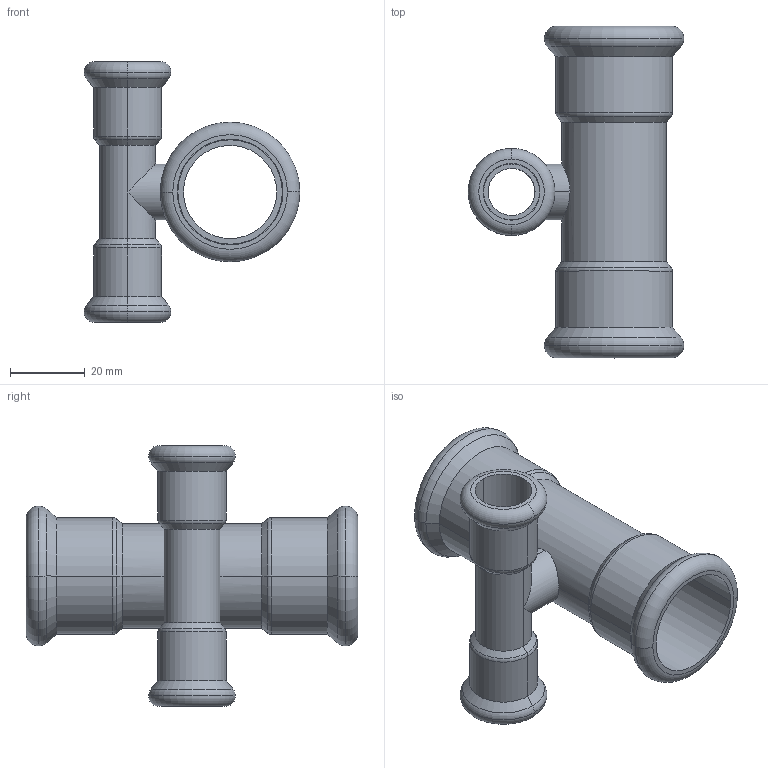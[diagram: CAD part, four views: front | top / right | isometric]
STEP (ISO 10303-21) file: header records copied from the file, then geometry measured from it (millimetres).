
FILE_DESCRIPTION(('CoCreate Modeling STEP Export'),'2;1');
FILE_NAME('C1434 28x15x28x15.stp','2014-11-12T16:29:11',(''),(''),'CoCreate Modeling STEP processor for AP214 (Solid Model)','CoCreate Modeling 17.00A 17-Jun-2010 (C) Parametric Technology GmbH','');
FILE_SCHEMA(('AUTOMOTIVE_DESIGN { 1 0 10303 214 1 1 1 1 }'));
Length unit declared in the file: millimetre
Products named in the file (2): C1434_28x15x28x15
Assembly tree (1 placements, depth 2):
  C1434_28x15x28x15
    C1434_28x15x28x15
Bounding box: 57.88 x 89 x 70 mm (x, y, z)
Volume: 22688.7 mm3; surface area: 25342.4 mm2
Topology: 1 solids, 1 shells, 89 faces, 194 edges, 114 vertices
Faces by surface type: cylinder 37, torus 24, cone 16, plane 12
Entity records: 3434 total; most frequent: CARTESIAN_POINT 1738, ORIENTED_EDGE 388, DIRECTION 296, EDGE_CURVE 194, AXIS2_PLACEMENT_3D 122, VERTEX_POINT 114, EDGE_LOOP 102, FACE_OUTER_BOUND 89
